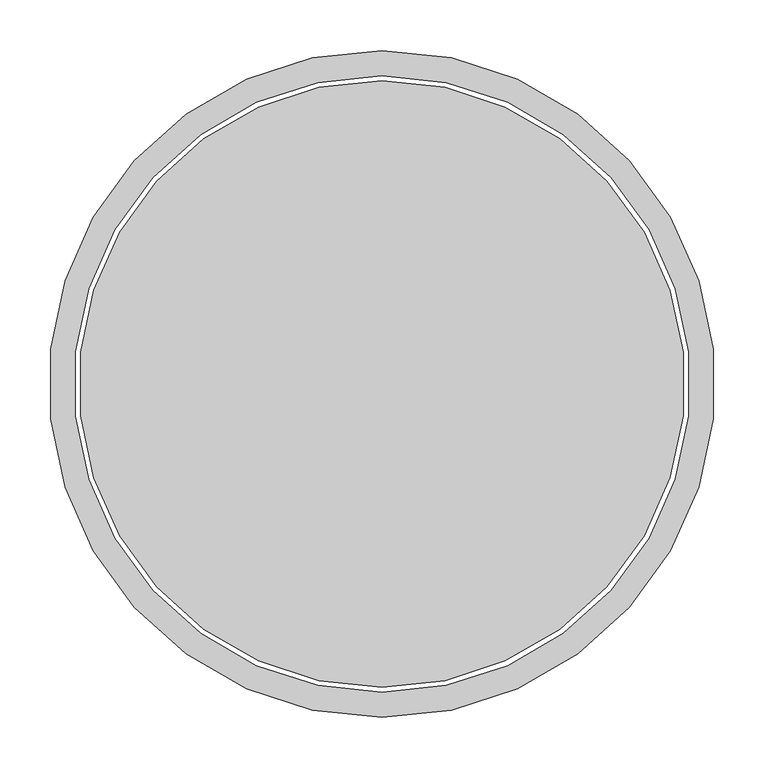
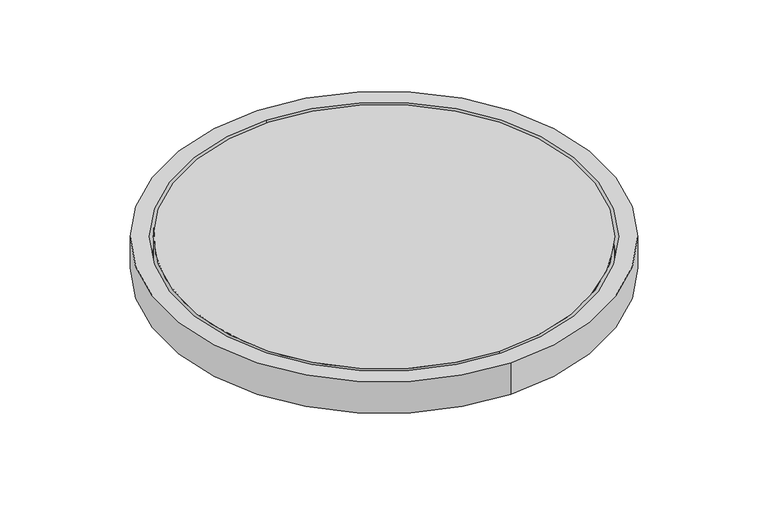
"""IFC4 building model written with IfcOpenShell, lengths in millimetres: valve geometry, Pipelife - Studnia PRO - Właz : Właz kanałowy 600 kl. A15 H50."""

from ifc_helpers import new_model, si_unit, point, origin, origin_with_axes, origin_2d, place, context, project, spatial, circle_curve, trimmed, segment, composite_curve, outline, extrude, source, transform, mapped, element, save


def valve_5dc0aaa4(model_context):
    return source(origin(), model_context, "Body", "SweptSolid", [
        extrude(outline(composite_curve([segment(trimmed(circle_curve(origin_2d(), 330.0), [point((0.0, 330.0))], [point((0.0, -330.0))], False, "CARTESIAN"), True, "CONTINUOUS"), segment(trimmed(circle_curve(origin_2d(), 330.0), [point((0.0, -330.0))], [point((0.0, 330.0))], False, "CARTESIAN"), True, "CONTINUOUS")], self_intersect=False), holes=[composite_curve([segment(trimmed(circle_curve(origin_2d(), 305.0), [point((0.0, 305.0))], [point((0.0, -305.0))], True, "CARTESIAN"), True, "CONTINUOUS"), segment(trimmed(circle_curve(origin_2d(), 305.0), [point((0.0, -305.0))], [point((0.0, 305.0))], True, "CARTESIAN"), True, "CONTINUOUS")], self_intersect=False)]), origin_with_axes(), (0.0, 0.0, 1.0), 50.0),
        extrude(outline(composite_curve([segment(trimmed(circle_curve(origin_2d(), 300.0), [point((0.0, 300.0))], [point((0.0, -300.0))], False, "CARTESIAN"), True, "CONTINUOUS"), segment(trimmed(circle_curve(origin_2d(), 300.0), [point((0.0, -300.0))], [point((0.0, 300.0))], False, "CARTESIAN"), True, "CONTINUOUS")], self_intersect=False)), origin_with_axes(), (0.0, 0.0, 1.0), 50.0),
    ])


if __name__ == "__main__":
    model = new_model("IFC4")
    model_context = context("Model", 3, world=origin())
    ifc_project = project(units=[si_unit("LENGTHUNIT", "METRE", prefix="MILLI")], contexts=[model_context])
    site = spatial("IfcSite", under=ifc_project)
    building = spatial("IfcBuilding", under=site)
    placement = place(None, origin())
    valve_shape = valve_5dc0aaa4(model_context)
    element("IfcValve", 1, ObjectType="Pipelife - Studnia PRO - Właz : Właz kanałowy 600 kl. A15 H50", at=placement, inside=building, context=model_context, shape_type="MappedRepresentation", body=[
        mapped(valve_shape, transform((0.0, 0.0, 0.0), x_axis=(1.0, 0.0, 0.0), y_axis=(0.0, 1.0, 0.0), z_axis=(0.0, 0.0, 1.0))),
    ])
    save(model, "model.ifc")
